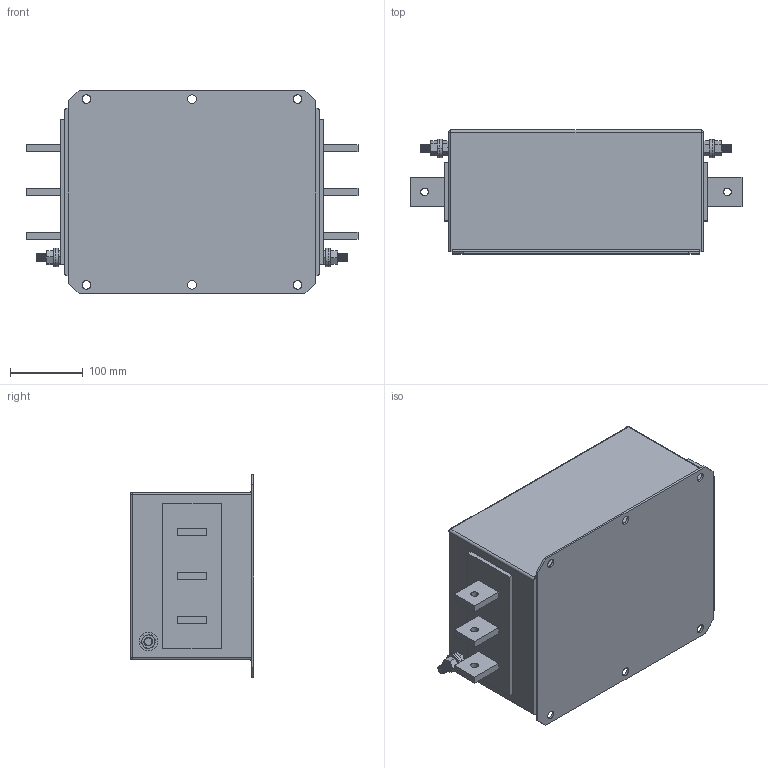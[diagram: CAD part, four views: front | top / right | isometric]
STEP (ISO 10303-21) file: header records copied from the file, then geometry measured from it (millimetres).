
FILE_DESCRIPTION (( 'STEP AP203' ), '1' );
FILE_NAME ('NF-800 (FNS-3).STEP', '2016-07-21T14:06:25', ( '' ), ( '' ), 'SwSTEP 2.0', 'SolidWorks 2016', '' );
FILE_SCHEMA (( 'CONFIG_CONTROL_DESIGN' ));
Length unit declared in the file: millimetre
Products named in the file (6): NF-800 (FNS-3); FNS-3; M12x30 Earth post; hex nut style 1_am_B18.2.4.1M - Hex nut, Style 1,  M12 x 1.75 --D-N; flat washer narrow_am_B18.22M - Plain washer, 12 mm, narrow; hex screw_am_B18.6.7M - M12 x 1.75 x 30 Indented HHMS --30S
Assembly tree (7 placements, depth 3):
  NF-800 (FNS-3)
    FNS-3
    M12x30 Earth post  x2
      flat washer narrow_am_B18.22M - Plain washer, 12 mm, narrow
      hex nut style 1_am_B18.2.4.1M - Hex nut, Style 1,  M12 x 1.75 --D-N
      hex screw_am_B18.6.7M - M12 x 1.75 x 30 Indented HHMS --30S
Bounding box: 456 x 170 x 280 mm (x, y, z)
Volume: 14002042.3 mm3; surface area: 449298.7 mm2
Topology: 9 solids, 9 shells, 438 faces, 1088 edges, 680 vertices
Faces by surface type: cone 184, cylinder 144, plane 106, sphere 4
Entity records: 8910 total; most frequent: CARTESIAN_POINT 1573, DIRECTION 1496, ORIENTED_EDGE 1336, EDGE_CURVE 668, AXIS2_PLACEMENT_3D 585, VERTEX_POINT 422, VECTOR 326, LINE 326
